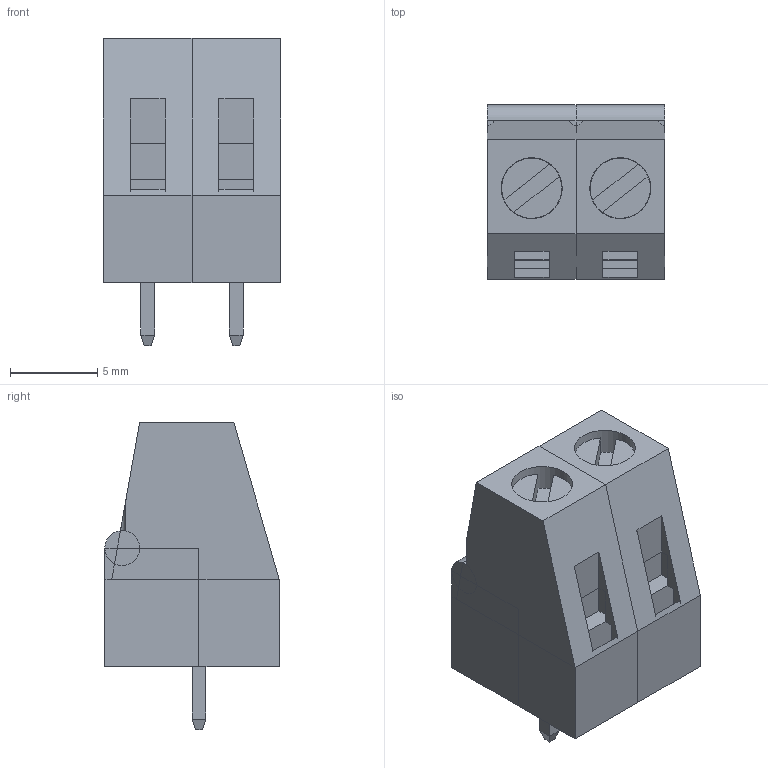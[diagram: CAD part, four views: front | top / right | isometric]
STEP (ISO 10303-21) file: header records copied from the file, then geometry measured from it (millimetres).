
FILE_DESCRIPTION(('FreeCAD Model'),'2;1');
FILE_NAME('Open CASCADE Shape Model','2023-11-30T20:31:08',('Author'),( ''),'Open CASCADE STEP processor 7.6','FreeCAD','Unknown');
FILE_SCHEMA(('AUTOMOTIVE_DESIGN { 1 0 10303 214 1 1 1 1 }'));
Length unit declared in the file: millimetre
Products named in the file (1): Group002
Bounding box: 10.16 x 10 x 17.6 mm (x, y, z)
Volume: 1018.9 mm3; surface area: 1081.7 mm2
Topology: 1 solids, 1 shells, 148 faces, 361 edges, 225 vertices
Faces by surface type: plane 138, cylinder 10
Full cylindrical faces by diameter (mm): 3.45 x2, 3.5 x2
Entity records: 9856 total; most frequent: CARTESIAN_POINT 1716, DIRECTION 1227, LINE 817, VECTOR 817, ORIENTED_EDGE 730, PCURVE 722, DEFINITIONAL_REPRESENTATION 722, EDGE_CURVE 361
